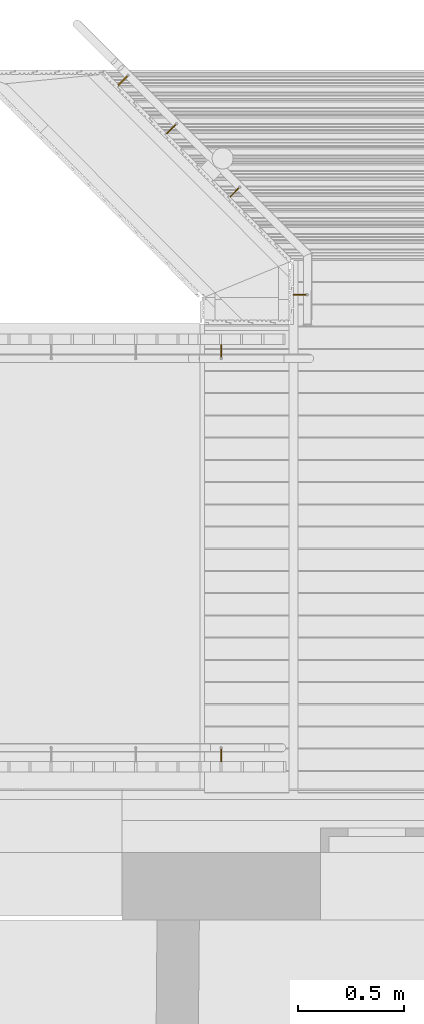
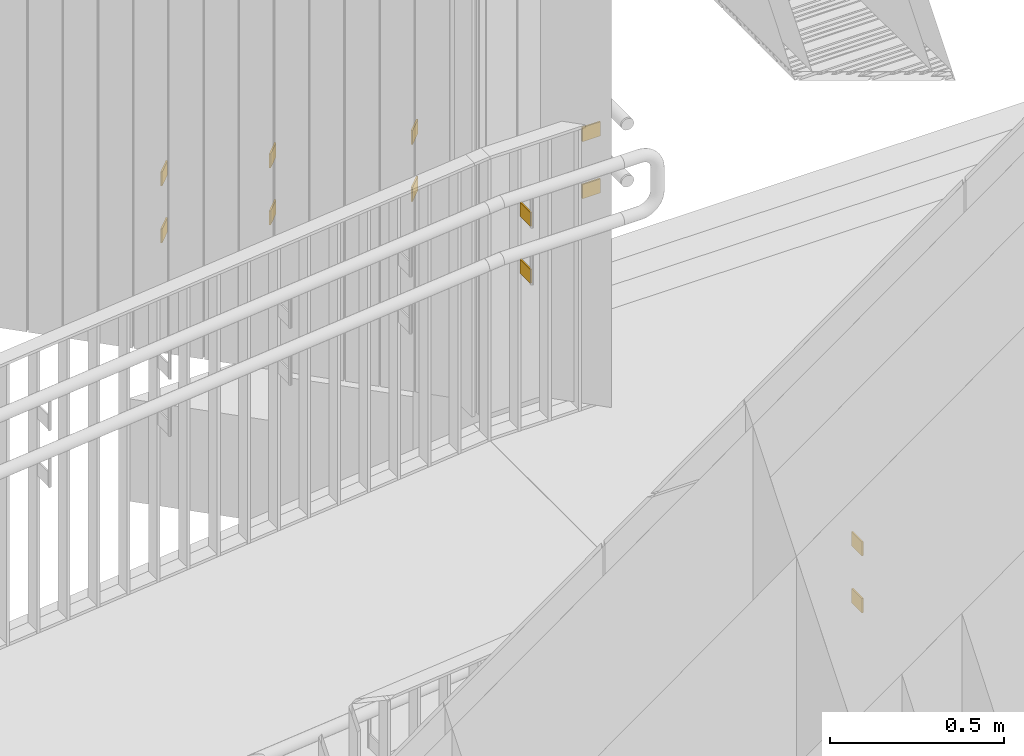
# One storey, part 167 of 418: 12 railings.
"""IFC2X3 building model written with IfcOpenShell, lengths in millimetres."""

import ifcopenshell
import ifcopenshell.guid

model = None  # the IFC model being written
_history = None  # IfcOwnerHistory: only IFC2X3 demands one
_inside = {}  # id of a spatial element -> (the spatial element, [elements in it])
_under = {}  # id of a project, library or spatial element -> (it, [spatial elements below it])
_declared = {}  # id of a project -> (the project, [libraries it declares])
_typed = {}  # id of a type object -> (the type object, [elements of that type])
_made_of = {}  # id of a material, layer set ... -> (it, [elements and type objects made of it])


def new_model(schema):
    """Start an empty IFC model of exactly this schema.

    Asked for "IFC4X3", IfcOpenShell would pick the latest addendum, in which some entities
    have other attributes; the version numbers below select the first issue.
    IFC2X3 requires an IfcOwnerHistory on every rooted entity: one is made here for all.
    """
    global model, _history
    if schema == "IFC4X3":
        model = ifcopenshell.file(schema_version=(4, 3, 0, 0))
    else:
        model = ifcopenshell.file(schema=schema)
    _inside.clear()
    _under.clear()
    _declared.clear()
    _typed.clear()
    _made_of.clear()
    _history = None
    if model.schema == "IFC2X3":
        org = make("IfcOrganization", Name="unknown")
        user = make(
            "IfcPersonAndOrganization",
            ThePerson=make("IfcPerson", FamilyName="unknown"),
            TheOrganization=org,
        )
        app = make(
            "IfcApplication",
            ApplicationDeveloper=org,
            Version="unknown",
            ApplicationFullName="unknown",
            ApplicationIdentifier="unknown",
        )
        _history = make(
            "IfcOwnerHistory",
            OwningUser=user,
            OwningApplication=app,
            ChangeAction="ADDED",
            CreationDate=0,
        )
    return model


def make(cls, **values):
    """One entity of the class cls with the attributes given. An attribute that is None is left unset."""
    return model.create_entity(
        cls, **{name: value for name, value in values.items() if value is not None}
    )


def entity(cls, *values):
    """Any entity or typed value of the class cls, its attributes in the order of the schema. None: left unset."""
    e = model.create_entity(cls)
    for i, value in enumerate(values):
        if value is not None:
            e[i] = value
    return e


def rooted(cls, **values):
    """An entity with a GlobalId (a new one), such as an element, a storey or a relation."""
    return make(cls, GlobalId=ifcopenshell.guid.new(), OwnerHistory=_history, **values)


def si_unit(unit_type, name, prefix=None):
    """IfcSIUnit, for example si_unit("LENGTHUNIT", "METRE", prefix="MILLI")."""
    return make("IfcSIUnit", UnitType=unit_type, Prefix=prefix, Name=name)


def converted_unit(unit_type, name, factor, base, dimensions=None, offset=None):
    """IfcConversionBasedUnit, such as the inch: factor (a typed value) times the base unit."""
    return make(
        "IfcConversionBasedUnit"
        if offset is None
        else "IfcConversionBasedUnitWithOffset",
        ConversionOffset=offset,
        Dimensions=None
        if dimensions is None
        else entity("IfcDimensionalExponents", *dimensions),
        UnitType=unit_type,
        Name=name,
        ConversionFactor=make(
            "IfcMeasureWithUnit", ValueComponent=factor, UnitComponent=base
        ),
    )


def derived_unit(unit_type, elements):
    """IfcDerivedUnit: a product of units, each with its exponent."""
    return make(
        "IfcDerivedUnit",
        Elements=[
            make("IfcDerivedUnitElement", Unit=unit, Exponent=power)
            for unit, power in elements
        ],
        UnitType=unit_type,
    )


def money_unit(currency):
    """IfcMonetaryUnit."""
    return make("IfcMonetaryUnit", Currency=currency)


def assignment(units):
    """IfcUnitAssignment: the units of a project."""
    return None if units is None else make("IfcUnitAssignment", Units=units)


def point(xyz):
    """IfcCartesianPoint."""
    return None if xyz is None else make("IfcCartesianPoint", Coordinates=xyz)


def direction(xyz):
    """IfcDirection."""
    return None if xyz is None else make("IfcDirection", DirectionRatios=xyz)


def frame(location, z_axis=None, x_axis=None):
    """IfcAxis2Placement3D, a coordinate frame: its origin and axes. An axis left out is left unset."""
    return make(
        "IfcAxis2Placement3D",
        Location=point(location),
        Axis=direction(z_axis),
        RefDirection=direction(x_axis),
    )


def origin_with_axes():
    """The frame at (0, 0, 0) with the z axis (0, 0, 1) and the x axis (1, 0, 0) written out."""
    return frame((0.0, 0.0, 0.0), z_axis=(0.0, 0.0, 1.0), x_axis=(1.0, 0.0, 0.0))


def place(relative_to, where):
    """IfcLocalPlacement: puts the frame where relative to a parent placement (None: the world)."""
    return make(
        "IfcLocalPlacement", PlacementRelTo=relative_to, RelativePlacement=where
    )


def context(
    kind, dimensions, precision=None, world=None, true_north=None, identifier=None
):
    """IfcGeometricRepresentationContext, for example the 3D "Model" context."""
    return make(
        "IfcGeometricRepresentationContext",
        ContextIdentifier=identifier,
        ContextType=kind,
        CoordinateSpaceDimension=dimensions,
        Precision=precision,
        WorldCoordinateSystem=world,
        TrueNorth=true_north,
    )


def subcontext(parent, identifier, kind, view, scale=None):
    """IfcGeometricRepresentationSubContext, for example "Body" below "Model"."""
    return make(
        "IfcGeometricRepresentationSubContext",
        ContextIdentifier=identifier,
        ContextType=kind,
        ParentContext=parent,
        TargetScale=scale,
        TargetView=view,
    )


def project(units=None, contexts=None):
    """IfcProject with its units and contexts."""
    return rooted(
        "IfcProject",
        Name="project",
        RepresentationContexts=contexts,
        UnitsInContext=assignment(units),
    )


def spatial(cls, under=None, at=None, **own):
    """A site, building, storey or space (cls), placed at a placement, below another one or the project."""
    s = rooted(cls, ObjectPlacement=at, **own)
    if under is not None:
        _under.setdefault(under.id(), (under, []))[1].append(s)
    return s


def polyline(points):
    """IfcPolyline through the points."""
    return make("IfcPolyline", Points=[point(p) for p in points])


def outline(outer, holes=None, kind="AREA"):
    """IfcArbitraryClosedProfileDef: a profile drawn as a closed curve; with holes, ...WithVoids."""
    if holes is None:
        return make("IfcArbitraryClosedProfileDef", ProfileType=kind, OuterCurve=outer)
    return make(
        "IfcArbitraryProfileDefWithVoids",
        ProfileType=kind,
        OuterCurve=outer,
        InnerCurves=holes,
    )


def extrude(swept, where, along, depth):
    """IfcExtrudedAreaSolid: the profile swept, set in the frame where, extruded along a direction by depth."""
    return make(
        "IfcExtrudedAreaSolid",
        SweptArea=swept,
        Position=where,
        ExtrudedDirection=direction(along),
        Depth=depth,
    )


def shape(context_of_items, identifier, shape_type, items):
    """IfcShapeRepresentation: the items that make up one representation, for example the "Body"."""
    return make(
        "IfcShapeRepresentation",
        ContextOfItems=context_of_items,
        RepresentationIdentifier=identifier,
        RepresentationType=shape_type,
        Items=items,
    )


def material(Name=None, Category=None):
    """IfcMaterial."""
    return make("IfcMaterial", Name=Name, Category=Category)


def made_of(thing, what):
    """Note that an element or type object is made of a material, layer set ...; save() writes the relation."""
    if what is not None:
        _made_of.setdefault(what.id(), (what, []))[1].append(thing)
    return thing


def type_object(cls, material=None, **own):
    """A type object (cls), such as IfcWallType, which elements share."""
    return made_of(rooted(cls, **own), material)


def element(
    cls,
    number,
    at=None,
    inside=None,
    cuts=None,
    type_object=None,
    material=None,
    context=None,
    identifier="Body",
    shape_type=None,
    held_by="IfcProductDefinitionShape",
    body=None,
    shapes=None,
    **own,
):
    """One element of the class cls, such as IfcWall. Its Tag is "e" and its number.

    at: its placement. inside: the storey or other place that contains it. cuts: it is an
    opening in that element (IfcRelVoidsElement). A single representation is given by context,
    identifier, shape_type and body (its items); several are given by shapes. held_by: the class
    of the entity that holds the representations. save() writes the other relations.
    """
    e = rooted(cls, Tag="e%d" % number, ObjectPlacement=at, **own)
    if body is not None:
        shapes = [shape(context, identifier, shape_type, body)]
    if shapes is not None:
        e.Representation = make(held_by, Representations=shapes)
    if inside is not None:
        _inside.setdefault(inside.id(), (inside, []))[1].append(e)
    if cuts is not None:
        rooted(
            "IfcRelVoidsElement", RelatingBuildingElement=cuts, RelatedOpeningElement=e
        )
    if type_object is not None:
        _typed.setdefault(type_object.id(), (type_object, []))[1].append(e)
    return made_of(e, material)


def aggregate(whole, parts):
    """IfcRelAggregates: a whole, such as a stair, and the parts it consists of."""
    return rooted("IfcRelAggregates", RelatingObject=whole, RelatedObjects=parts)


def save(model, path):
    """Write the relations noted so far, then the file.

    IfcRelAggregates (storeys below a building ...), IfcRelContainedInSpatialStructure (elements
    in a storey), IfcRelDefinesByType, IfcRelAssociatesMaterial and IfcRelDeclares: one each for
    every whole, place, type object, material and project.
    """
    for whole, parts in _under.values():
        aggregate(whole, parts)
    for where, things in _inside.values():
        rooted(
            "IfcRelContainedInSpatialStructure",
            RelatedElements=things,
            RelatingStructure=where,
        )
    for kind, things in _typed.values():
        rooted("IfcRelDefinesByType", RelatedObjects=things, RelatingType=kind)
    for what, things in _made_of.values():
        rooted("IfcRelAssociatesMaterial", RelatedObjects=things, RelatingMaterial=what)
    for by, libraries in _declared.values():
        rooted("IfcRelDeclares", RelatingContext=by, RelatedDefinitions=libraries)
    model.write(path)


model = new_model("IFC2X3")

# Units and contexts
model_context = context("Model", 3, precision=0.01, world=origin_with_axes(), true_north=direction((0.0, 1.0)))
body_context = subcontext(model_context, "Body", "Model", "MODEL_VIEW")
ifc_project = project(units=[si_unit("LENGTHUNIT", "METRE", prefix="MILLI"), si_unit("AREAUNIT", "SQUARE_METRE"), si_unit("VOLUMEUNIT", "CUBIC_METRE"), converted_unit("PLANEANGLEUNIT", "DEGREE", entity("IfcPlaneAngleMeasure", 0.0174532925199), si_unit("PLANEANGLEUNIT", "RADIAN"), dimensions=[0, 0, 0, 0, 0, 0, 0]), si_unit("SOLIDANGLEUNIT", "STERADIAN"), money_unit("EUR"), converted_unit("TIMEUNIT", "Year", entity("IfcTimeMeasure", 31556926.0), si_unit("TIMEUNIT", "SECOND"), dimensions=[0, 0, 1, 0, 0, 0, 0]), si_unit("MASSUNIT", "GRAM", prefix="KILO"), si_unit("THERMODYNAMICTEMPERATUREUNIT", "DEGREE_CELSIUS"), si_unit("LUMINOUSINTENSITYUNIT", "LUMEN"), si_unit("ENERGYUNIT", "JOULE", prefix="MEGA"), derived_unit("THERMALCONDUCTANCEUNIT", [(si_unit("POWERUNIT", "WATT"), 1), (si_unit("LENGTHUNIT", "METRE"), -1), (si_unit("THERMODYNAMICTEMPERATUREUNIT", "KELVIN"), -1)]), derived_unit("SPECIFICHEATCAPACITYUNIT", [(si_unit("ENERGYUNIT", "JOULE"), 1), (si_unit("MASSUNIT", "GRAM", prefix="KILO"), -1), (si_unit("THERMODYNAMICTEMPERATUREUNIT", "KELVIN"), -1)]), derived_unit("MASSDENSITYUNIT", [(si_unit("MASSUNIT", "GRAM", prefix="KILO"), 1), (si_unit("VOLUMEUNIT", "CUBIC_METRE"), -1)])], contexts=[model_context])

# Site, building, storey
site_placement = place(None, origin_with_axes())
site = spatial("IfcSite", under=ifc_project, at=site_placement, Name="Paldiski mnt 245/1, Tallinn, Harjumaa", CompositionType="COMPLEX")
building_placement = place(site_placement, origin_with_axes())
building = spatial("IfcBuilding", under=site, at=building_placement, Name="RKAS Hoone üldnimetus (kasutust iseloomustav) -> IFC Project Manager -> SOLIBRI", CompositionType="ELEMENT")
storey_placement = place(building_placement, origin_with_axes())
storey = spatial("IfcBuildingStorey", under=building, at=storey_placement, Name="Esimene korrus", CompositionType="ELEMENT", Elevation=0.0)

# Railings
ifc_material_1 = material(Name="RAL7016")
railing_type_1 = type_object("IfcRailingType", Name="RAL7016 50", PredefinedType="NOTDEFINED")
for number, where, z_axis, x_axis in (
    (1, (-53575.0763624, 39486.0946052, 237.887210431), (0.0, 0.0, 1.0), (1.0, 0.0, 0.0)),
    (2, (-53575.0763624, 39486.0946052, 438.309110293), (0.0, 0.0, 1.0), (1.0, 0.0, 0.0)),
):
    element("IfcRailing", number, at=place(storey_placement, frame(where, z_axis=z_axis, x_axis=x_axis)), inside=storey, type_object=railing_type_1, material=ifc_material_1, Name="Trepiire", PredefinedType="NOTDEFINED", context=body_context, shape_type="SweptSolid", body=[
        extrude(outline(polyline([(0.0, 0.0), (42.4264068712, 42.4264068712), (38.8908729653, 45.9619407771), (-3.53553390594, 3.53553390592), (0.0, 0.0)])), frame((0.0, 0.0, -50.0), z_axis=(0.0, 0.0, 1.0), x_axis=(1.0, 0.0, 0.0)), (0.0, 0.0, 1.0), 50.0),
    ])
railing_1_placement = place(storey_placement, frame((-53803.8159431, 39714.8341859, 115.85338438), z_axis=(0.0, 0.0, 1.0), x_axis=(1.0, 0.0, 0.0)))
element("IfcRailing", 3, at=railing_1_placement, inside=storey, type_object=railing_type_1, material=ifc_material_1, Name="Trepiire", PredefinedType="NOTDEFINED", context=body_context, shape_type="SweptSolid", body=[
    extrude(outline(polyline([(0.0, 0.0), (42.4264068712, 42.4264068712), (38.8908729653, 45.9619407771), (-3.53553390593, 3.53553390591), (0.0, 0.0)])), frame((0.0, 0.0, -50.0), z_axis=(0.0, 0.0, 1.0), x_axis=(1.0, 0.0, 0.0)), (0.0, 0.0, 1.0), 50.0),
])
railing_2_placement = place(storey_placement, frame((-52978.5785888, 38723.80061, 583.831957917), z_axis=(0.0, 0.0, 1.0), x_axis=(1.0, 0.0, 0.0)))
element("IfcRailing", 4, at=railing_2_placement, inside=storey, type_object=railing_type_1, material=ifc_material_1, Name="Trepiire", PredefinedType="NOTDEFINED", context=body_context, shape_type="SweptSolid", body=[
    extrude(outline(polyline([(0.0, 0.0), (60.0, 1.52315493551e-06), (59.999999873, 5.00000152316), (-1.26952670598e-07, 5.0), (0.0, 0.0)])), frame((0.0, 0.0, -50.0), z_axis=(0.0, 0.0, 1.0), x_axis=(1.0, 0.0, 0.0)), (0.0, 0.0, 1.0), 50.0),
])
railing_3_placement = place(storey_placement, frame((-53276.647262, 39186.2098183, 397.113326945), z_axis=(0.0, 0.0, 1.0), x_axis=(1.0, 0.0, 0.0)))
element("IfcRailing", 5, at=railing_3_placement, inside=storey, type_object=railing_type_1, material=ifc_material_1, Name="Trepiire", PredefinedType="NOTDEFINED", context=body_context, shape_type="SweptSolid", body=[
    extrude(outline(polyline([(0.0, 0.0), (42.4264068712, 42.4264068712), (38.8908729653, 45.9619407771), (-3.53553390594, 3.53553390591), (0.0, 0.0)])), frame((0.0, 0.0, -50.0), z_axis=(0.0, 0.0, 1.0), x_axis=(1.0, 0.0, 0.0)), (0.0, 0.0, 1.0), 50.0),
])
railing_4_placement = place(storey_placement, frame((-52978.5785888, 38723.80061, 784.253857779), z_axis=(0.0, 0.0, 1.0), x_axis=(1.0, 0.0, 0.0)))
element("IfcRailing", 6, at=railing_4_placement, inside=storey, type_object=railing_type_1, material=ifc_material_1, Name="Trepiire", PredefinedType="NOTDEFINED", context=body_context, shape_type="SweptSolid", body=[
    extrude(outline(polyline([(0.0, 0.0), (60.0, 1.52315493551e-06), (59.999999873, 5.00000152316), (-1.26952670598e-07, 5.0), (0.0, 0.0)])), frame((0.0, 0.0, -50.0), z_axis=(0.0, 0.0, 1.0), x_axis=(1.0, 0.0, 0.0)), (0.0, 0.0, 1.0), 50.0),
])
railing_5_placement = place(storey_placement, frame((-53803.8159431, 39714.8341859, 316.275284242), z_axis=(0.0, 0.0, 1.0), x_axis=(1.0, 0.0, 0.0)))
element("IfcRailing", 7, at=railing_5_placement, inside=storey, type_object=railing_type_1, material=ifc_material_1, Name="Trepiire", PredefinedType="NOTDEFINED", context=body_context, shape_type="SweptSolid", body=[
    extrude(outline(polyline([(0.0, 0.0), (42.4264068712, 42.4264068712), (38.8908729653, 45.9619407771), (-3.53553390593, 3.53553390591), (0.0, 0.0)])), frame((0.0, 0.0, -50.0), z_axis=(0.0, 0.0, 1.0), x_axis=(1.0, 0.0, 0.0)), (0.0, 0.0, 1.0), 50.0),
])
railing_6_placement = place(storey_placement, frame((-53276.647262, 39186.2098183, 597.535226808), z_axis=(0.0, 0.0, 1.0), x_axis=(1.0, 0.0, 0.0)))
element("IfcRailing", 8, at=railing_6_placement, inside=storey, type_object=railing_type_1, material=ifc_material_1, Name="Trepiire", PredefinedType="NOTDEFINED", context=body_context, shape_type="SweptSolid", body=[
    extrude(outline(polyline([(0.0, 0.0), (42.4264068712, 42.4264068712), (38.8908729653, 45.9619407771), (-3.53553390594, 3.53553390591), (0.0, 0.0)])), frame((0.0, 0.0, -50.0), z_axis=(0.0, 0.0, 1.0), x_axis=(1.0, 0.0, 0.0)), (0.0, 0.0, 1.0), 50.0),
])
ifc_material_2 = material(Name="RAL 7011 Tumehall")
railing_type_2 = type_object("IfcRailingType", Name="RAL 7011 Tumehall 50", PredefinedType="NOTDEFINED")
railing_7_placement = place(storey_placement, frame((-53317.2695353, 36519.8286725, 784.713015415), z_axis=(0.0, 0.0, 1.0), x_axis=(1.0, 0.0, 0.0)))
element("IfcRailing", 9, at=railing_7_placement, inside=storey, type_object=railing_type_2, material=ifc_material_2, Name="Trepiire", PredefinedType="NOTDEFINED", context=body_context, shape_type="SweptSolid", body=[
    extrude(outline(polyline([(0.0, 0.0), (0.0, 60.0), (-5.0, 60.0), (-5.0, 0.0), (0.0, 0.0)])), frame((0.0, 0.0, -50.0), z_axis=(0.0, 0.0, 1.0), x_axis=(1.0, 0.0, 0.0)), (0.0, 0.0, 1.0), 50.0),
])
railing_8_placement = place(storey_placement, frame((-53317.2693367, 36519.8286725, 584.712965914), z_axis=(0.0, 0.0, 1.0), x_axis=(1.0, 0.0, 0.0)))
element("IfcRailing", 10, at=railing_8_placement, inside=storey, type_object=railing_type_2, material=ifc_material_2, Name="Trepiire", PredefinedType="NOTDEFINED", context=body_context, shape_type="SweptSolid", body=[
    extrude(outline(polyline([(0.0, 0.0), (0.0, 60.0), (-5.00000000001, 60.0), (-5.00000000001, 0.0), (0.0, 0.0)])), frame((0.0, 0.0, -50.0), z_axis=(0.0, 0.0, 1.0), x_axis=(1.0, 0.0, 0.0)), (0.0, 0.0, 1.0), 50.0),
])
ifc_material_3 = material(Name="RAL 9007")
railing_type_3 = type_object("IfcRailingType", Name="RAL 9007 50", PredefinedType="NOTDEFINED")
railing_9_placement = place(storey_placement, frame((-53317.2695353, 38489.7311931, 784.713015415), z_axis=(0.0, 0.0, 1.0), x_axis=(1.0, 0.0, 0.0)))
element("IfcRailing", 11, at=railing_9_placement, inside=storey, type_object=railing_type_3, material=ifc_material_3, Name="Trepiire", PredefinedType="NOTDEFINED", context=body_context, shape_type="SweptSolid", body=[
    extrude(outline(polyline([(0.0, 0.0), (-5.00000000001, 0.0), (-5.0, -60.0), (0.0, -60.0), (0.0, 0.0)])), frame((0.0, 0.0, -50.0), z_axis=(0.0, 0.0, 1.0), x_axis=(1.0, 0.0, 0.0)), (0.0, 0.0, 1.0), 50.0),
])
railing_10_placement = place(storey_placement, frame((-53317.2693367, 38489.7311931, 584.712965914), z_axis=(0.0, 0.0, 1.0), x_axis=(1.0, 0.0, 0.0)))
element("IfcRailing", 12, at=railing_10_placement, inside=storey, type_object=railing_type_3, material=ifc_material_3, Name="Trepiire", PredefinedType="NOTDEFINED", context=body_context, shape_type="SweptSolid", body=[
    extrude(outline(polyline([(0.0, 0.0), (-5.00000000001, 0.0), (-5.00000000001, -60.0), (0.0, -60.0), (0.0, 0.0)])), frame((0.0, 0.0, -50.0), z_axis=(0.0, 0.0, 1.0), x_axis=(1.0, 0.0, 0.0)), (0.0, 0.0, 1.0), 50.0),
])

save(model, "model.ifc")
